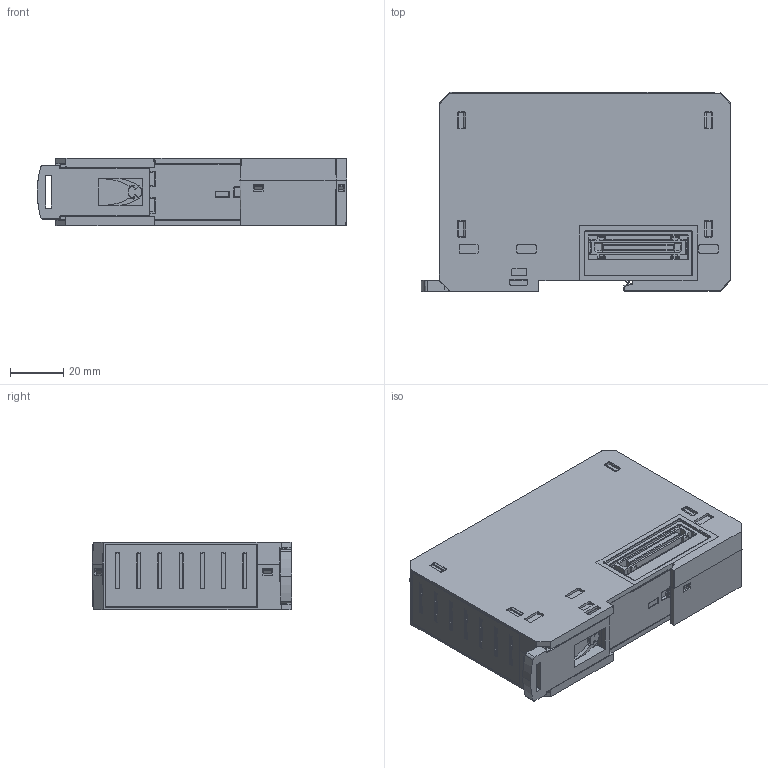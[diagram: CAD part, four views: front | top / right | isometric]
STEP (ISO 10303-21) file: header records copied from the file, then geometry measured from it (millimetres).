
FILE_DESCRIPTION (( 'STEP AP203' ), '1' );
FILE_NAME ('MicroEDGE Basic.STEP', '2024-03-26T11:53:50', ( '' ), ( '' ), 'SwSTEP 2.0', 'SolidWorks 2023', '' );
FILE_SCHEMA (( 'CONFIG_CONTROL_DESIGN' ));
Length unit declared in the file: millimetre
Products named in the file (1): MicroEDGE Basic
Bounding box: 116.78 x 75.1 x 25.4 mm (x, y, z)
Volume: 192429.7 mm3; surface area: 50656.5 mm2
Topology: 1 solids, 41 shells, 5139 faces, 13854 edges, 8943 vertices
Faces by surface type: plane 3373, cylinder 966, bspline 539, cone 149, sphere 104, torus 8
Entity records: 163880 total; most frequent: CARTESIAN_POINT 39231, ORIENTED_EDGE 27682, DIRECTION 23036, EDGE_CURVE 13841, LINE 10286, VECTOR 10286, VERTEX_POINT 8943, AXIS2_PLACEMENT_3D 6375
